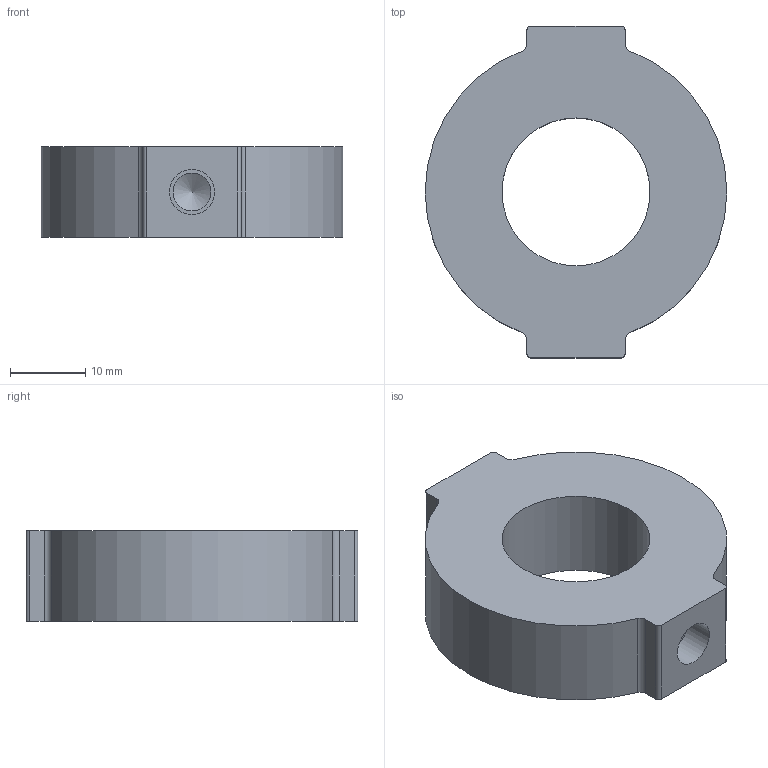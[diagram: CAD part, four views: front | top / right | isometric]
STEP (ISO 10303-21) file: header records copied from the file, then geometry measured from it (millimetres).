
FILE_DESCRIPTION (( 'STEP AP203' ), '1' );
FILE_NAME ('LNR-MO.step', '2017-01-11T09:45:58', ( '¦K¬P' ), ( '' ), 'SwSTEP 2.0', 'SolidWorks 2012', '' );
FILE_SCHEMA (( 'CONFIG_CONTROL_DESIGN' ));
Length unit declared in the file: millimetre
Products named in the file (1): LNR-MO
Bounding box: 40 x 44 x 12 mm (x, y, z)
Volume: 11972.2 mm3; surface area: 4571.6 mm2
Topology: 1 solids, 1 shells, 27 faces, 67 edges, 44 vertices
Faces by surface type: cylinder 15, plane 10, cone 2
Full cylindrical faces by diameter (mm): 3.3 x1, 4 x1, 5 x1, 6 x1, 19.62 x1
Entity records: 843 total; most frequent: DIRECTION 144, CARTESIAN_POINT 128, ORIENTED_EDGE 116, AXIS2_PLACEMENT_3D 58, EDGE_CURVE 58, VERTEX_POINT 42, EDGE_LOOP 38, FACE_OUTER_BOUND 32
